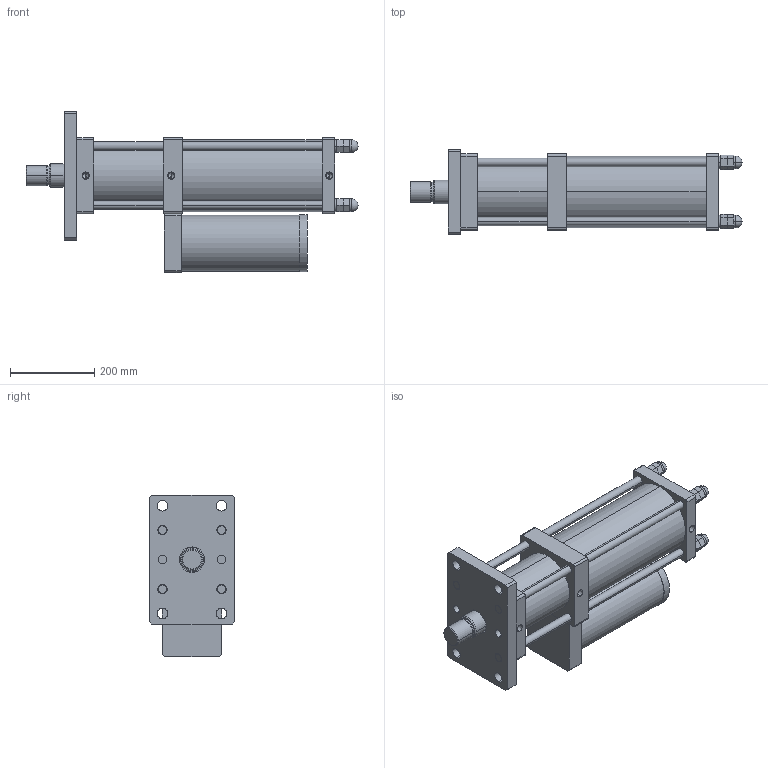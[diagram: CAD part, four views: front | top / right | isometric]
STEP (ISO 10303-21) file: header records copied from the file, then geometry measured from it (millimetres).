
FILE_DESCRIPTION (( 'STEP AP203' ), '1' );
FILE_NAME ('CPT-125-100-15-20T.STEP', '2016-03-12T01:54:15', ( 'WIN' ), ( '' ), 'SwSTEP 2.0', 'SolidWorks 2014', '' );
FILE_SCHEMA (( 'CONFIG_CONTROL_DESIGN' ));
Length unit declared in the file: millimetre
Products named in the file (1): CPT-125-100-15-20T
Bounding box: 786 x 200 x 382.5 mm (x, y, z)
Volume: 18044504.5 mm3; surface area: 1256002 mm2
Topology: 17 solids, 17 shells, 318 faces, 726 edges, 454 vertices
Faces by surface type: plane 154, cylinder 122, cone 30, sphere 8, torus 4
Entity records: 8889 total; most frequent: DIRECTION 1638, CARTESIAN_POINT 1467, ORIENTED_EDGE 1404, EDGE_CURVE 702, AXIS2_PLACEMENT_3D 617, VERTEX_POINT 446, VECTOR 404, LINE 404
